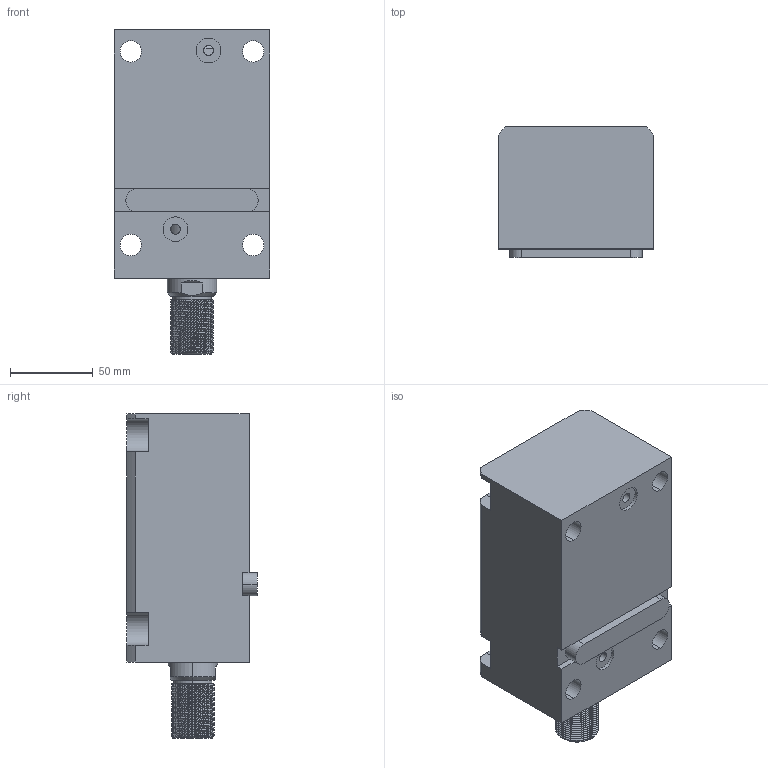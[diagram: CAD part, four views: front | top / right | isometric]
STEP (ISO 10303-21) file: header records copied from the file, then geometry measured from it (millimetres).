
FILE_DESCRIPTION (( 'STEP AP203' ), '1' );
FILE_NAME ('CHTB-LAM50-90W.STEP', '2018-05-23T11:22:23', ( '' ), ( '' ), 'SwSTEP 2.0', 'SolidWorks 2015', '' );
FILE_SCHEMA (( 'CONFIG_CONTROL_DESIGN' ));
Length unit declared in the file: millimetre
Products named in the file (4): CHTM-SDMA50QG; 活塞杆LAM50-90W; CHTB-LAM50-90W; 掛极LAM50-90W
Assembly tree (3 placements, depth 2):
  CHTB-LAM50-90W
    掛极LAM50-90W
    活塞杆LAM50-90W
    CHTM-SDMA50QG
Bounding box: 94 x 79 x 196 mm (x, y, z)
Volume: 900869.5 mm3; surface area: 138691.7 mm2
Topology: 3 solids, 3 shells, 234 faces, 652 edges, 436 vertices
Faces by surface type: cylinder 136, plane 53, bspline 16, torus 16, cone 13
Entity records: 14802 total; most frequent: CARTESIAN_POINT 8867, ORIENTED_EDGE 1296, DIRECTION 1023, EDGE_CURVE 648, VERTEX_POINT 436, AXIS2_PLACEMENT_3D 395, EDGE_LOOP 264, ADVANCED_FACE 234
